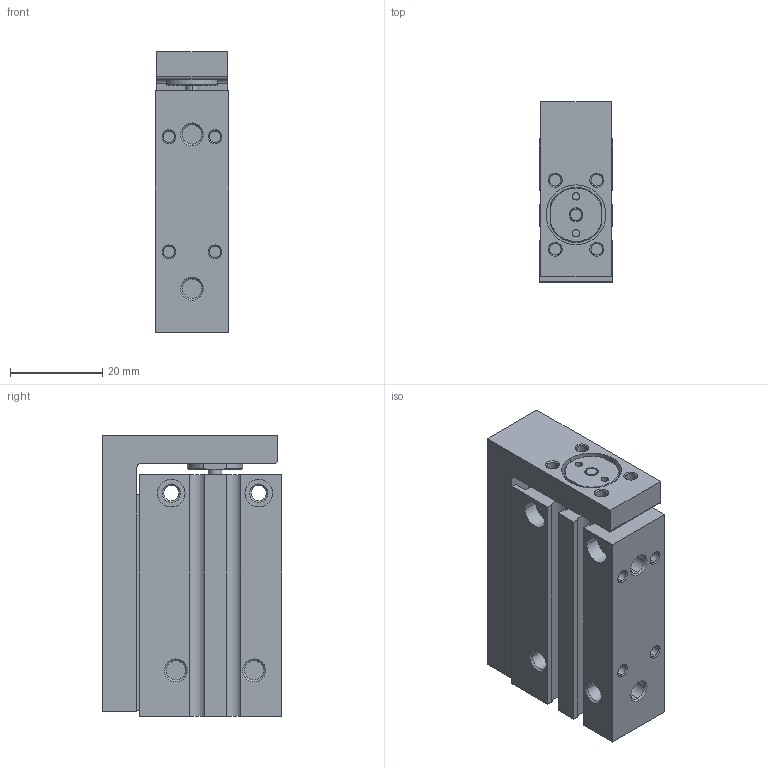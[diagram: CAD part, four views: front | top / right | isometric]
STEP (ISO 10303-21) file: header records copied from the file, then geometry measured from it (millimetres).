
FILE_DESCRIPTION((''),'2;1');
FILE_NAME('0821406503_ASM','2017-08-22T',('vol1hc'),(''),'CREO PARAMETRIC BY PTC INC, 2016260','CREO PARAMETRIC BY PTC INC, 2016260','');
FILE_SCHEMA(('CONFIG_CONTROL_DESIGN'));
Length unit declared in the file: millimetre
Products named in the file (3): 0821406503-A; 0821406503-B; 0821406503_ASM
Assembly tree (2 placements, depth 2):
  0821406503_ASM
    0821406503-A
    0821406503-B
Bounding box: 16 x 39 x 61 mm (x, y, z)
Volume: 29870.5 mm3; surface area: 17828.7 mm2
Topology: 2 solids, 2 shells, 401 faces, 926 edges, 595 vertices
Faces by surface type: plane 194, cylinder 137, cone 70
Entity records: 11538 total; most frequent: DIRECTION 2072, CARTESIAN_POINT 1973, ORIENTED_EDGE 1852, EDGE_CURVE 926, AXIS2_PLACEMENT_3D 752, VERTEX_POINT 595, VECTOR 568, LINE 568
